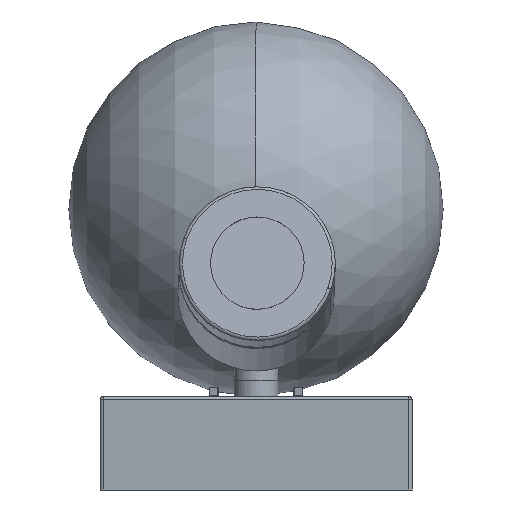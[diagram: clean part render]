
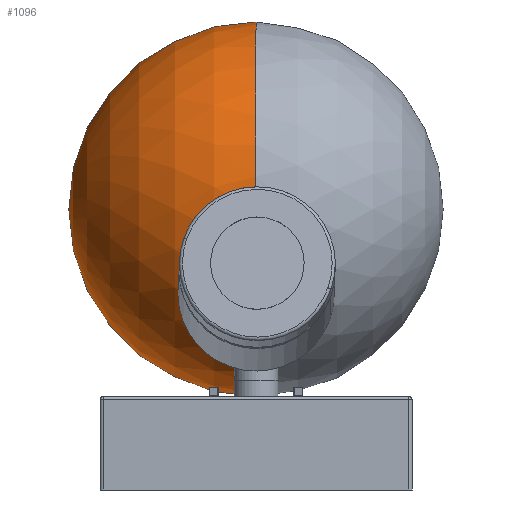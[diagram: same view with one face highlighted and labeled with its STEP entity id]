
A CAD part, front view. The second image highlights one B-rep face of the part: STEP entity #1096.
In plain terms, the highlighted spherical face has radius 60 mm.
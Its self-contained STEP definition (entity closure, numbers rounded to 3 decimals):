
#51 = EDGE_CURVE ( 'NONE', #3906, #1195, #1927, .T. ) ;
#67 = AXIS2_PLACEMENT_3D ( 'NONE', #940, #1528, #889 ) ;
#137 = DIRECTION ( 'NONE',  ( 0., 0., -1. ) ) ;
#339 = CIRCLE ( 'NONE', #1584, 60. ) ;
#357 = DIRECTION ( 'NONE',  ( 0., -1., 0. ) ) ;
#668 = ORIENTED_EDGE ( 'NONE', *, *, #51, .T. ) ;
#719 = EDGE_CURVE ( 'NONE', #3906, #1195, #339, .T. ) ;
#793 = ORIENTED_EDGE ( 'NONE', *, *, #719, .F. ) ;
#799 = AXIS2_PLACEMENT_3D ( 'NONE', #2854, #1939, #357 ) ;
#889 = DIRECTION ( 'NONE',  ( 0., 1., 0. ) ) ;
#940 = CARTESIAN_POINT ( 'NONE',  ( 0., 75., 90. ) ) ;
#1096 = ADVANCED_FACE ( 'NONE', ( #3682 ), #3359, .T. ) ;
#1195 = VERTEX_POINT ( 'NONE', #2495 ) ;
#1528 = DIRECTION ( 'NONE',  ( -1., 0., 0. ) ) ;
#1584 = AXIS2_PLACEMENT_3D ( 'NONE', #2278, #2888, #137 ) ;
#1927 = CIRCLE ( 'NONE', #799, 60. ) ;
#1939 = DIRECTION ( 'NONE',  ( -1., 0., 0. ) ) ;
#2278 = CARTESIAN_POINT ( 'NONE',  ( 0., 75., 90. ) ) ;
#2495 = CARTESIAN_POINT ( 'NONE',  ( 0., 75., 150. ) ) ;
#2716 = EDGE_LOOP ( 'NONE', ( #793, #668 ) ) ;
#2854 = CARTESIAN_POINT ( 'NONE',  ( 0., 75., 90. ) ) ;
#2888 = DIRECTION ( 'NONE',  ( 1., 0., 0. ) ) ;
#3359 = SPHERICAL_SURFACE ( 'NONE', #67, 60. ) ;
#3682 = FACE_OUTER_BOUND ( 'NONE', #2716, .T. ) ;
#3904 = CARTESIAN_POINT ( 'NONE',  ( 0., 75., 30. ) ) ;
#3906 = VERTEX_POINT ( 'NONE', #3904 ) ;
